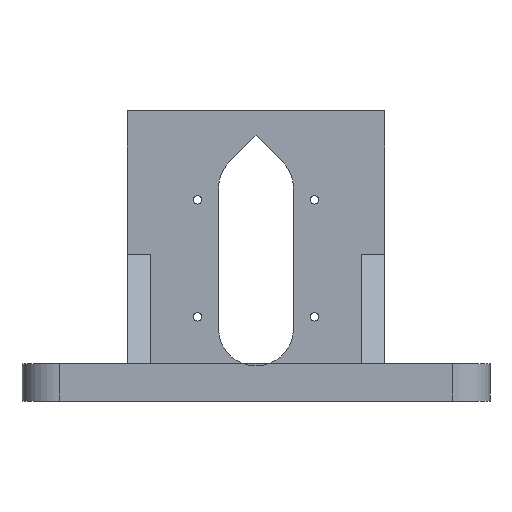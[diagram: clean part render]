
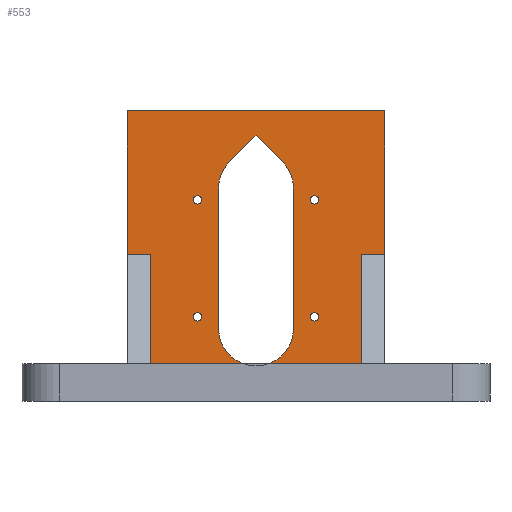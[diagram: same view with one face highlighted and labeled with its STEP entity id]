
A CAD part, left-side view. The second image highlights one B-rep face of the part: STEP entity #553.
In plain terms, the highlighted planar face has unit normal (-1, 0, 0).
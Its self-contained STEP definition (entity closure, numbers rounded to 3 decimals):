
#117 = VERTEX_POINT('',#118);
#118 = CARTESIAN_POINT('',(1.6,2.784,8.));
#124 = EDGE_CURVE('',#117,#125,#127,.T.);
#125 = VERTEX_POINT('',#126);
#126 = CARTESIAN_POINT('',(1.6,22.5,8.));
#127 = LINE('',#128,#129);
#128 = CARTESIAN_POINT('',(1.6,-13.75,8.));
#129 = VECTOR('',#130,1.);
#130 = DIRECTION('',(0.,1.,0.));
#213 = VERTEX_POINT('',#214);
#214 = CARTESIAN_POINT('',(1.6,-22.5,8.));
#220 = EDGE_CURVE('',#213,#221,#223,.T.);
#221 = VERTEX_POINT('',#222);
#222 = CARTESIAN_POINT('',(1.6,-2.784,8.));
#223 = LINE('',#224,#225);
#224 = CARTESIAN_POINT('',(1.6,-13.75,8.));
#225 = VECTOR('',#226,1.);
#226 = DIRECTION('',(0.,1.,0.));
#553 = ADVANCED_FACE('',(#554,#678,#689,#700,#711),#722,.F.);
#554 = FACE_BOUND('',#555,.F.);
#555 = EDGE_LOOP('',(#556,#566,#574,#580,#581,#590,#598,#607,#615,#623,
    #632,#640,#647,#648,#656,#664,#672));
#556 = ORIENTED_EDGE('',*,*,#557,.F.);
#557 = EDGE_CURVE('',#558,#560,#562,.T.);
#558 = VERTEX_POINT('',#559);
#559 = CARTESIAN_POINT('',(1.6,-27.5,31.375));
#560 = VERTEX_POINT('',#561);
#561 = CARTESIAN_POINT('',(1.6,-27.5,62.));
#562 = LINE('',#563,#564);
#563 = CARTESIAN_POINT('',(1.6,-27.5,7.));
#564 = VECTOR('',#565,1.);
#565 = DIRECTION('',(0.,0.,1.));
#566 = ORIENTED_EDGE('',*,*,#567,.F.);
#567 = EDGE_CURVE('',#568,#558,#570,.T.);
#568 = VERTEX_POINT('',#569);
#569 = CARTESIAN_POINT('',(1.6,-22.5,31.375));
#570 = LINE('',#571,#572);
#571 = CARTESIAN_POINT('',(1.6,-27.5,31.375));
#572 = VECTOR('',#573,1.);
#573 = DIRECTION('',(0.,-1.,0.));
#574 = ORIENTED_EDGE('',*,*,#575,.F.);
#575 = EDGE_CURVE('',#213,#568,#576,.T.);
#576 = LINE('',#577,#578);
#577 = CARTESIAN_POINT('',(1.6,-22.5,7.));
#578 = VECTOR('',#579,1.);
#579 = DIRECTION('',(0.,0.,1.));
#580 = ORIENTED_EDGE('',*,*,#220,.T.);
#581 = ORIENTED_EDGE('',*,*,#582,.T.);
#582 = EDGE_CURVE('',#221,#583,#585,.T.);
#583 = VERTEX_POINT('',#584);
#584 = CARTESIAN_POINT('',(1.6,-8.,15.5));
#585 = CIRCLE('',#586,8.);
#586 = AXIS2_PLACEMENT_3D('',#587,#588,#589);
#587 = CARTESIAN_POINT('',(1.6,0.,15.5));
#588 = DIRECTION('',(-1.,-0.,0.));
#589 = DIRECTION('',(0.,0.,-1.));
#590 = ORIENTED_EDGE('',*,*,#591,.T.);
#591 = EDGE_CURVE('',#583,#592,#594,.T.);
#592 = VERTEX_POINT('',#593);
#593 = CARTESIAN_POINT('',(1.6,-8.,45.5));
#594 = LINE('',#595,#596);
#595 = CARTESIAN_POINT('',(1.6,-8.,11.25));
#596 = VECTOR('',#597,1.);
#597 = DIRECTION('',(0.,0.,1.));
#598 = ORIENTED_EDGE('',*,*,#599,.T.);
#599 = EDGE_CURVE('',#592,#600,#602,.T.);
#600 = VERTEX_POINT('',#601);
#601 = CARTESIAN_POINT('',(1.6,-5.657,51.157));
#602 = CIRCLE('',#603,8.);
#603 = AXIS2_PLACEMENT_3D('',#604,#605,#606);
#604 = CARTESIAN_POINT('',(1.6,0.,45.5));
#605 = DIRECTION('',(-1.,-0.,0.));
#606 = DIRECTION('',(0.,0.,-1.));
#607 = ORIENTED_EDGE('',*,*,#608,.T.);
#608 = EDGE_CURVE('',#600,#609,#611,.T.);
#609 = VERTEX_POINT('',#610);
#610 = CARTESIAN_POINT('',(1.6,0.,56.814));
#611 = LINE('',#612,#613);
#612 = CARTESIAN_POINT('',(1.6,-19.328,37.485));
#613 = VECTOR('',#614,1.);
#614 = DIRECTION('',(0.,0.707,0.707));
#615 = ORIENTED_EDGE('',*,*,#616,.T.);
#616 = EDGE_CURVE('',#609,#617,#619,.T.);
#617 = VERTEX_POINT('',#618);
#618 = CARTESIAN_POINT('',(1.6,5.657,51.157));
#619 = LINE('',#620,#621);
#620 = CARTESIAN_POINT('',(1.6,11.235,45.578));
#621 = VECTOR('',#622,1.);
#622 = DIRECTION('',(0.,0.707,-0.707));
#623 = ORIENTED_EDGE('',*,*,#624,.T.);
#624 = EDGE_CURVE('',#617,#625,#627,.T.);
#625 = VERTEX_POINT('',#626);
#626 = CARTESIAN_POINT('',(1.6,8.,45.5));
#627 = CIRCLE('',#628,8.);
#628 = AXIS2_PLACEMENT_3D('',#629,#630,#631);
#629 = CARTESIAN_POINT('',(1.6,0.,45.5));
#630 = DIRECTION('',(-1.,-0.,0.));
#631 = DIRECTION('',(0.,0.,-1.));
#632 = ORIENTED_EDGE('',*,*,#633,.F.);
#633 = EDGE_CURVE('',#634,#625,#636,.T.);
#634 = VERTEX_POINT('',#635);
#635 = CARTESIAN_POINT('',(1.6,8.,15.5));
#636 = LINE('',#637,#638);
#637 = CARTESIAN_POINT('',(1.6,8.,11.25));
#638 = VECTOR('',#639,1.);
#639 = DIRECTION('',(0.,0.,1.));
#640 = ORIENTED_EDGE('',*,*,#641,.T.);
#641 = EDGE_CURVE('',#634,#117,#642,.T.);
#642 = CIRCLE('',#643,8.);
#643 = AXIS2_PLACEMENT_3D('',#644,#645,#646);
#644 = CARTESIAN_POINT('',(1.6,0.,15.5));
#645 = DIRECTION('',(-1.,-0.,0.));
#646 = DIRECTION('',(0.,0.,-1.));
#647 = ORIENTED_EDGE('',*,*,#124,.T.);
#648 = ORIENTED_EDGE('',*,*,#649,.T.);
#649 = EDGE_CURVE('',#125,#650,#652,.T.);
#650 = VERTEX_POINT('',#651);
#651 = CARTESIAN_POINT('',(1.6,22.5,31.375));
#652 = LINE('',#653,#654);
#653 = CARTESIAN_POINT('',(1.6,22.5,7.));
#654 = VECTOR('',#655,1.);
#655 = DIRECTION('',(0.,0.,1.));
#656 = ORIENTED_EDGE('',*,*,#657,.F.);
#657 = EDGE_CURVE('',#658,#650,#660,.T.);
#658 = VERTEX_POINT('',#659);
#659 = CARTESIAN_POINT('',(1.6,27.5,31.375));
#660 = LINE('',#661,#662);
#661 = CARTESIAN_POINT('',(1.6,-2.5,31.375));
#662 = VECTOR('',#663,1.);
#663 = DIRECTION('',(0.,-1.,0.));
#664 = ORIENTED_EDGE('',*,*,#665,.T.);
#665 = EDGE_CURVE('',#658,#666,#668,.T.);
#666 = VERTEX_POINT('',#667);
#667 = CARTESIAN_POINT('',(1.6,27.5,62.));
#668 = LINE('',#669,#670);
#669 = CARTESIAN_POINT('',(1.6,27.5,7.));
#670 = VECTOR('',#671,1.);
#671 = DIRECTION('',(0.,0.,1.));
#672 = ORIENTED_EDGE('',*,*,#673,.F.);
#673 = EDGE_CURVE('',#560,#666,#674,.T.);
#674 = LINE('',#675,#676);
#675 = CARTESIAN_POINT('',(1.6,-27.5,62.));
#676 = VECTOR('',#677,1.);
#677 = DIRECTION('',(0.,1.,0.));
#678 = FACE_BOUND('',#679,.F.);
#679 = EDGE_LOOP('',(#680));
#680 = ORIENTED_EDGE('',*,*,#681,.T.);
#681 = EDGE_CURVE('',#682,#682,#684,.T.);
#682 = VERTEX_POINT('',#683);
#683 = CARTESIAN_POINT('',(1.6,12.5,17.1));
#684 = CIRCLE('',#685,0.9);
#685 = AXIS2_PLACEMENT_3D('',#686,#687,#688);
#686 = CARTESIAN_POINT('',(1.6,12.5,18.));
#687 = DIRECTION('',(-1.,-0.,0.));
#688 = DIRECTION('',(0.,0.,-1.));
#689 = FACE_BOUND('',#690,.F.);
#690 = EDGE_LOOP('',(#691));
#691 = ORIENTED_EDGE('',*,*,#692,.T.);
#692 = EDGE_CURVE('',#693,#693,#695,.T.);
#693 = VERTEX_POINT('',#694);
#694 = CARTESIAN_POINT('',(1.6,12.5,42.1));
#695 = CIRCLE('',#696,0.9);
#696 = AXIS2_PLACEMENT_3D('',#697,#698,#699);
#697 = CARTESIAN_POINT('',(1.6,12.5,43.));
#698 = DIRECTION('',(-1.,-0.,0.));
#699 = DIRECTION('',(0.,0.,-1.));
#700 = FACE_BOUND('',#701,.F.);
#701 = EDGE_LOOP('',(#702));
#702 = ORIENTED_EDGE('',*,*,#703,.T.);
#703 = EDGE_CURVE('',#704,#704,#706,.T.);
#704 = VERTEX_POINT('',#705);
#705 = CARTESIAN_POINT('',(1.6,-12.5,17.1));
#706 = CIRCLE('',#707,0.9);
#707 = AXIS2_PLACEMENT_3D('',#708,#709,#710);
#708 = CARTESIAN_POINT('',(1.6,-12.5,18.));
#709 = DIRECTION('',(-1.,-0.,0.));
#710 = DIRECTION('',(0.,0.,-1.));
#711 = FACE_BOUND('',#712,.F.);
#712 = EDGE_LOOP('',(#713));
#713 = ORIENTED_EDGE('',*,*,#714,.T.);
#714 = EDGE_CURVE('',#715,#715,#717,.T.);
#715 = VERTEX_POINT('',#716);
#716 = CARTESIAN_POINT('',(1.6,-12.5,42.1));
#717 = CIRCLE('',#718,0.9);
#718 = AXIS2_PLACEMENT_3D('',#719,#720,#721);
#719 = CARTESIAN_POINT('',(1.6,-12.5,43.));
#720 = DIRECTION('',(-1.,-0.,0.));
#721 = DIRECTION('',(0.,0.,-1.));
#722 = PLANE('',#723);
#723 = AXIS2_PLACEMENT_3D('',#724,#725,#726);
#724 = CARTESIAN_POINT('',(1.6,-27.5,7.));
#725 = DIRECTION('',(1.,0.,0.));
#726 = DIRECTION('',(0.,0.,1.));
